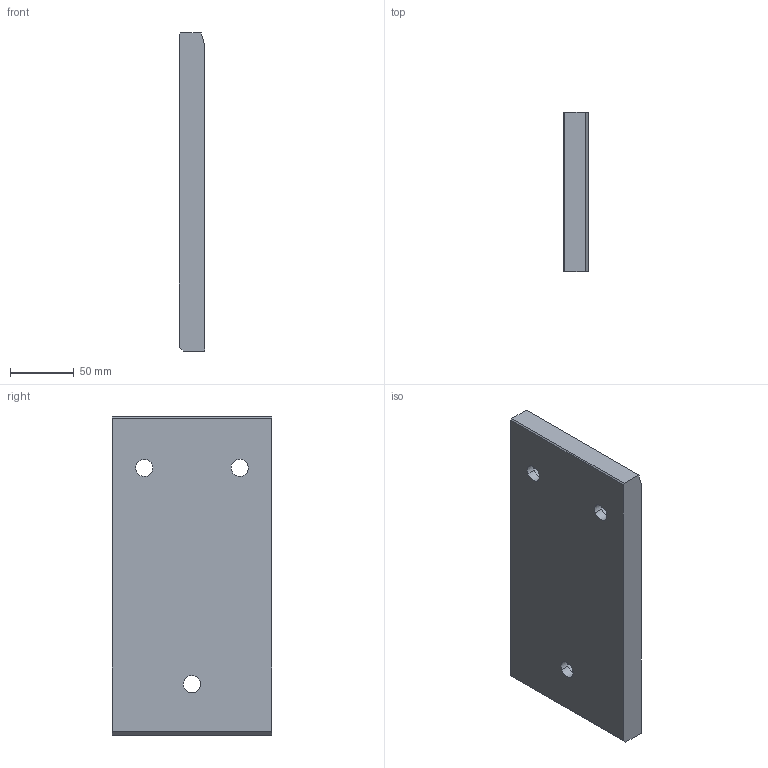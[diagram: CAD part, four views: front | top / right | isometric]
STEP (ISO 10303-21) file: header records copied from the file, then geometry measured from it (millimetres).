
FILE_DESCRIPTION (( 'STEP AP214' ), '1' );
FILE_NAME ('SW225-01-125x250.STEP', '2020-10-21T10:34:31', ( 'August' ), ( '' ), 'SwSTEP 2.0', 'SolidWorks 2018', '' );
FILE_SCHEMA (( 'AUTOMOTIVE_DESIGN' ));
Length unit declared in the file: millimetre
Products named in the file (1): SW225-01-125x250
Bounding box: 20 x 125 x 250 mm (x, y, z)
Volume: 607439.9 mm3; surface area: 79360.7 mm2
Topology: 1 solids, 1 shells, 25 faces, 60 edges, 40 vertices
Faces by surface type: cylinder 13, plane 12
Entity records: 858 total; most frequent: CARTESIAN_POINT 210, DIRECTION 130, ORIENTED_EDGE 120, EDGE_CURVE 60, AXIS2_PLACEMENT_3D 48, VERTEX_POINT 40, LINE 34, EDGE_LOOP 34
